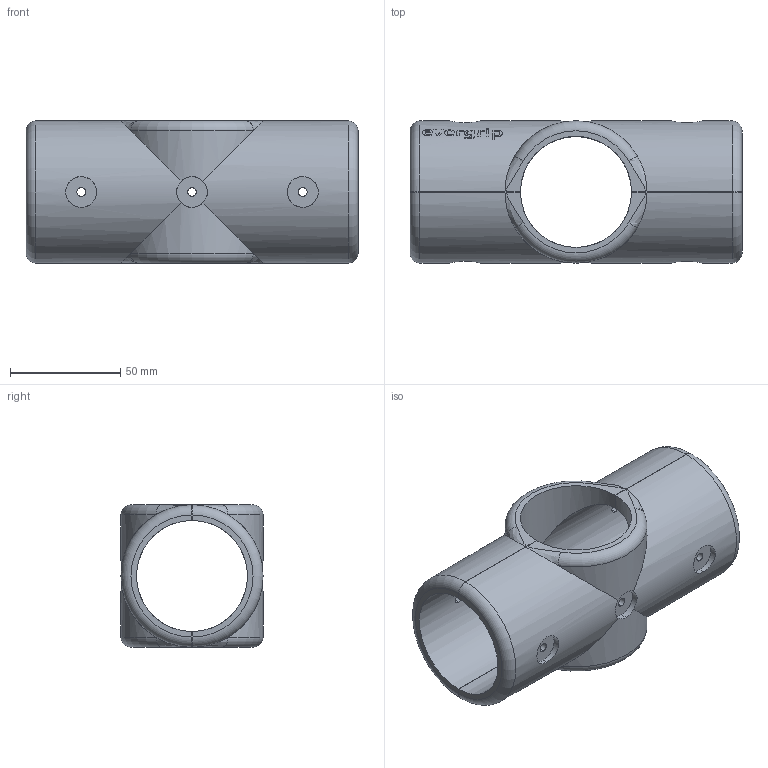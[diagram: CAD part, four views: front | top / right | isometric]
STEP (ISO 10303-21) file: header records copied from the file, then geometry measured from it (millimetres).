
FILE_DESCRIPTION (( 'STEP AP203' ), '1' );
FILE_NAME ('KIE_018.A13.STEP', '2025-01-22T19:11:38', ( '' ), ( '' ), 'SwSTEP 2.0', 'SolidWorks 2023', '' );
FILE_SCHEMA (( 'CONFIG_CONTROL_DESIGN' ));
Length unit declared in the file: millimetre
Products named in the file (1): KIE_018.A13
Bounding box: 150.3 x 64.3 x 64.4 mm (x, y, z)
Volume: 171897.5 mm3; surface area: 57764 mm2
Topology: 2 solids, 2 shells, 91 faces, 361 edges, 289 vertices
Faces by surface type: cylinder 53, plane 22, torus 8, bspline 8
Entity records: 7717 total; most frequent: CARTESIAN_POINT 4967, ORIENTED_EDGE 722, EDGE_CURVE 361, DIRECTION 344, VERTEX_POINT 289, B_SPLINE_CURVE_WITH_KNOTS 217, AXIS2_PLACEMENT_3D 140, EDGE_LOOP 118
